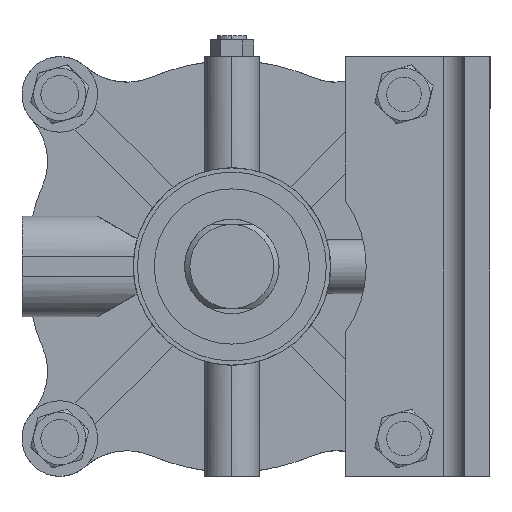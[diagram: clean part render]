
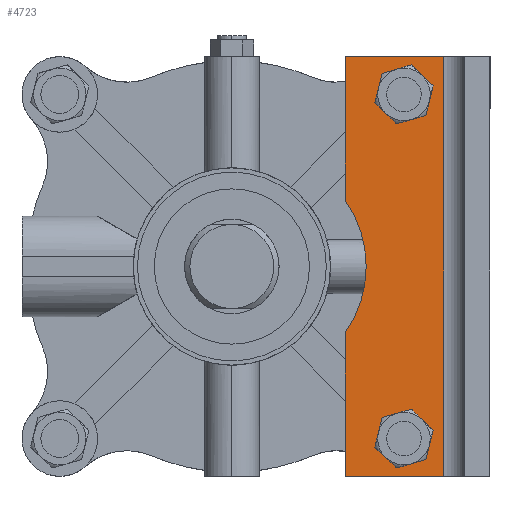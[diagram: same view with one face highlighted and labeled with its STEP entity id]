
A CAD part, left-side view. The second image highlights one B-rep face of the part: STEP entity #4723.
In plain terms, the highlighted planar face has unit normal (-1, 0, 0) as drawn and (0, 0, 1) by its records, which use the part's own axes.
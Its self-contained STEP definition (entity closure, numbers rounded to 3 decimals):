
#84 = CARTESIAN_POINT ( 'NONE',  ( -100., 0., 0. ) ) ;
#102 = CARTESIAN_POINT ( 'NONE',  ( 82., -73., 0. ) ) ;
#173 = DIRECTION ( 'NONE',  ( 0., -1., 0. ) ) ;
#191 = CARTESIAN_POINT ( 'NONE',  ( 0., 0., 0. ) ) ;
#214 = EDGE_CURVE ( 'NONE', #1525, #5379, #6099, .T. ) ;
#385 = EDGE_CURVE ( 'NONE', #8643, #970, #7631, .T. ) ;
#513 = LINE ( 'NONE', #4658, #3371 ) ;
#519 = LINE ( 'NONE', #6684, #4426 ) ;
#529 = VERTEX_POINT ( 'NONE', #9072 ) ;
#602 = CIRCLE ( 'NONE', #1814, 9. ) ;
#824 = CARTESIAN_POINT ( 'NONE',  ( 100., -45., 0. ) ) ;
#853 = AXIS2_PLACEMENT_3D ( 'NONE', #191, #8219, #2205 ) ;
#970 = VERTEX_POINT ( 'NONE', #8609 ) ;
#976 = LINE ( 'NONE', #6149, #6061 ) ;
#1019 = VERTEX_POINT ( 'NONE', #6358 ) ;
#1031 = FACE_BOUND ( 'NONE', #7598, .T. ) ;
#1355 = VERTEX_POINT ( 'NONE', #824 ) ;
#1428 = EDGE_LOOP ( 'NONE', ( #1518, #4535, #7058, #5204, #7810, #2215 ) ) ;
#1511 = DIRECTION ( 'NONE',  ( 0., 0., 1. ) ) ;
#1518 = ORIENTED_EDGE ( 'NONE', *, *, #214, .T. ) ;
#1525 = VERTEX_POINT ( 'NONE', #9179 ) ;
#1580 = CARTESIAN_POINT ( 'NONE',  ( 82., -73., 0. ) ) ;
#1736 = EDGE_CURVE ( 'NONE', #1019, #1525, #519, .T. ) ;
#1814 = AXIS2_PLACEMENT_3D ( 'NONE', #9694, #1511, #5190 ) ;
#1864 = EDGE_CURVE ( 'NONE', #529, #6426, #602, .T. ) ;
#2205 = DIRECTION ( 'NONE',  ( 1., 0., 0. ) ) ;
#2215 = ORIENTED_EDGE ( 'NONE', *, *, #1736, .T. ) ;
#2383 = EDGE_CURVE ( 'NONE', #1355, #3613, #976, .T. ) ;
#2394 = ORIENTED_EDGE ( 'NONE', *, *, #6739, .F. ) ;
#2424 = EDGE_LOOP ( 'NONE', ( #2394, #8464 ) ) ;
#2672 = DIRECTION ( 'NONE',  ( 0., 0., 1. ) ) ;
#2804 = ORIENTED_EDGE ( 'NONE', *, *, #5141, .F. ) ;
#3184 = VECTOR ( 'NONE', #8678, 1000. ) ;
#3371 = VECTOR ( 'NONE', #173, 1000. ) ;
#3473 = CARTESIAN_POINT ( 'NONE',  ( 0., -92., 0. ) ) ;
#3501 = CARTESIAN_POINT ( 'NONE',  ( 73., -73., 0. ) ) ;
#3568 = DIRECTION ( 'NONE',  ( 0., 0., 1. ) ) ;
#3613 = VERTEX_POINT ( 'NONE', #4928 ) ;
#3647 = CARTESIAN_POINT ( 'NONE',  ( -73., -73., 0. ) ) ;
#3690 = AXIS2_PLACEMENT_3D ( 'NONE', #4489, #2672, #10151 ) ;
#3892 = DIRECTION ( 'NONE',  ( 1., 0., 0. ) ) ;
#3906 = DIRECTION ( 'NONE',  ( 1., 0., 0. ) ) ;
#4066 = CARTESIAN_POINT ( 'NONE',  ( 0., 0., 0. ) ) ;
#4212 = DIRECTION ( 'NONE',  ( 0., -1., 0. ) ) ;
#4221 = EDGE_CURVE ( 'NONE', #1019, #3613, #5704, .T. ) ;
#4426 = VECTOR ( 'NONE', #10163, 1000. ) ;
#4479 = VECTOR ( 'NONE', #4212, 1000. ) ;
#4489 = CARTESIAN_POINT ( 'NONE',  ( -82., -73., 0. ) ) ;
#4535 = ORIENTED_EDGE ( 'NONE', *, *, #9881, .T. ) ;
#4542 = AXIS2_PLACEMENT_3D ( 'NONE', #1580, #3568, #3892 ) ;
#4658 = CARTESIAN_POINT ( 'NONE',  ( 100., 0., 0. ) ) ;
#4723 = ADVANCED_FACE ( 'NONE', ( #9534, #5518, #1031 ), #8708, .T. ) ;
#4928 = CARTESIAN_POINT ( 'NONE',  ( 31.623, -45., 0. ) ) ;
#5141 = EDGE_CURVE ( 'NONE', #6426, #529, #10029, .T. ) ;
#5190 = DIRECTION ( 'NONE',  ( 1., 0., 0. ) ) ;
#5204 = ORIENTED_EDGE ( 'NONE', *, *, #2383, .T. ) ;
#5379 = VERTEX_POINT ( 'NONE', #7221 ) ;
#5416 = AXIS2_PLACEMENT_3D ( 'NONE', #102, #10264, #3906 ) ;
#5471 = DIRECTION ( 'NONE',  ( -1., 0., 0. ) ) ;
#5518 = FACE_BOUND ( 'NONE', #2424, .T. ) ;
#5704 = CIRCLE ( 'NONE', #9721, 55. ) ;
#6061 = VECTOR ( 'NONE', #5471, 1000. ) ;
#6099 = LINE ( 'NONE', #84, #4479 ) ;
#6149 = CARTESIAN_POINT ( 'NONE',  ( 0., -45., 0. ) ) ;
#6358 = CARTESIAN_POINT ( 'NONE',  ( -31.623, -45., 0. ) ) ;
#6426 = VERTEX_POINT ( 'NONE', #3647 ) ;
#6599 = CARTESIAN_POINT ( 'NONE',  ( 100., -92., 0. ) ) ;
#6648 = EDGE_CURVE ( 'NONE', #1355, #9120, #513, .T. ) ;
#6684 = CARTESIAN_POINT ( 'NONE',  ( 0., -45., 0. ) ) ;
#6739 = EDGE_CURVE ( 'NONE', #970, #8643, #8720, .T. ) ;
#7058 = ORIENTED_EDGE ( 'NONE', *, *, #6648, .F. ) ;
#7221 = CARTESIAN_POINT ( 'NONE',  ( -100., -92., 0. ) ) ;
#7518 = LINE ( 'NONE', #3473, #3184 ) ;
#7598 = EDGE_LOOP ( 'NONE', ( #2804, #8471 ) ) ;
#7631 = CIRCLE ( 'NONE', #4542, 9. ) ;
#7810 = ORIENTED_EDGE ( 'NONE', *, *, #4221, .F. ) ;
#8219 = DIRECTION ( 'NONE',  ( 0., 0., 1. ) ) ;
#8464 = ORIENTED_EDGE ( 'NONE', *, *, #385, .F. ) ;
#8471 = ORIENTED_EDGE ( 'NONE', *, *, #1864, .F. ) ;
#8609 = CARTESIAN_POINT ( 'NONE',  ( 91., -73., 0. ) ) ;
#8643 = VERTEX_POINT ( 'NONE', #3501 ) ;
#8678 = DIRECTION ( 'NONE',  ( 1., 0., 0. ) ) ;
#8708 = PLANE ( 'NONE',  #853 ) ;
#8720 = CIRCLE ( 'NONE', #5416, 9. ) ;
#8955 = DIRECTION ( 'NONE',  ( 1., 0., 0. ) ) ;
#9072 = CARTESIAN_POINT ( 'NONE',  ( -91., -73., 0. ) ) ;
#9120 = VERTEX_POINT ( 'NONE', #6599 ) ;
#9179 = CARTESIAN_POINT ( 'NONE',  ( -100., -45., 0. ) ) ;
#9456 = DIRECTION ( 'NONE',  ( 0., 0., 1. ) ) ;
#9534 = FACE_OUTER_BOUND ( 'NONE', #1428, .T. ) ;
#9694 = CARTESIAN_POINT ( 'NONE',  ( -82., -73., 0. ) ) ;
#9721 = AXIS2_PLACEMENT_3D ( 'NONE', #4066, #9456, #8955 ) ;
#9881 = EDGE_CURVE ( 'NONE', #5379, #9120, #7518, .T. ) ;
#10029 = CIRCLE ( 'NONE', #3690, 9. ) ;
#10151 = DIRECTION ( 'NONE',  ( 1., 0., 0. ) ) ;
#10163 = DIRECTION ( 'NONE',  ( -1., 0., 0. ) ) ;
#10264 = DIRECTION ( 'NONE',  ( 0., 0., 1. ) ) ;
